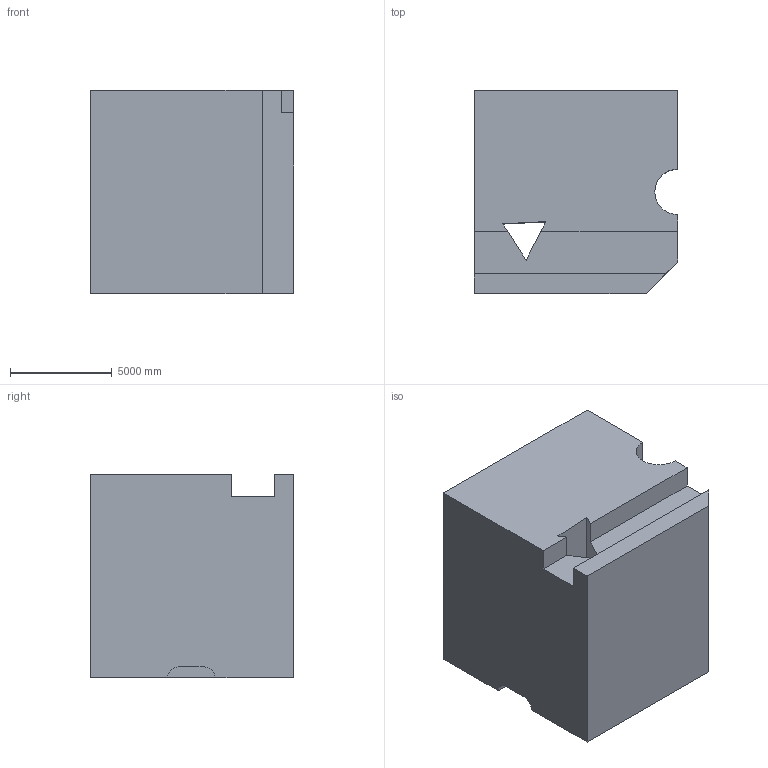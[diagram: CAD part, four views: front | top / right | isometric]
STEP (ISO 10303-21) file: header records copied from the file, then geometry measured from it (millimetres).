
FILE_DESCRIPTION (( 'STEP AP203' ), '1' );
FILE_NAME ('819.STEP', '2022-08-04T15:58:16', ( 'user' ), ( '' ), 'SwSTEP 2.0', 'SolidWorks 2021', '' );
FILE_SCHEMA (( 'CONFIG_CONTROL_DESIGN' ));
Length unit declared in the file: centimetre
Products named in the file (1): 819
Bounding box: 10000 x 10000 x 10000 mm (x, y, z)
Volume: 876882754620.8 mm3; surface area: 745405725.3 mm2
Topology: 1 solids, 1 shells, 35 faces, 93 edges, 62 vertices
Faces by surface type: plane 30, cylinder 5
Entity records: 1158 total; most frequent: CARTESIAN_POINT 191, ORIENTED_EDGE 186, DIRECTION 175, EDGE_CURVE 93, VECTOR 83, LINE 83, VERTEX_POINT 62, AXIS2_PLACEMENT_3D 46
